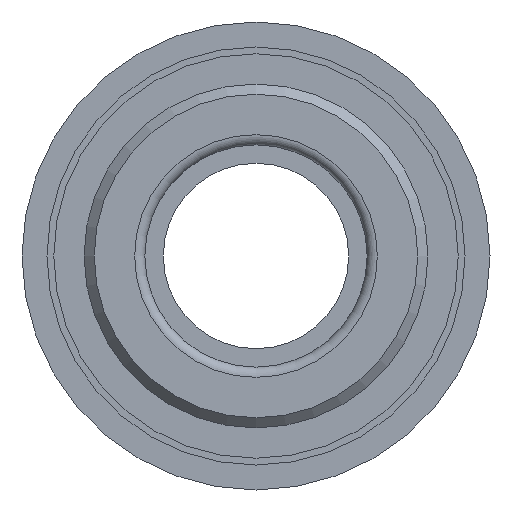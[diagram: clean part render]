
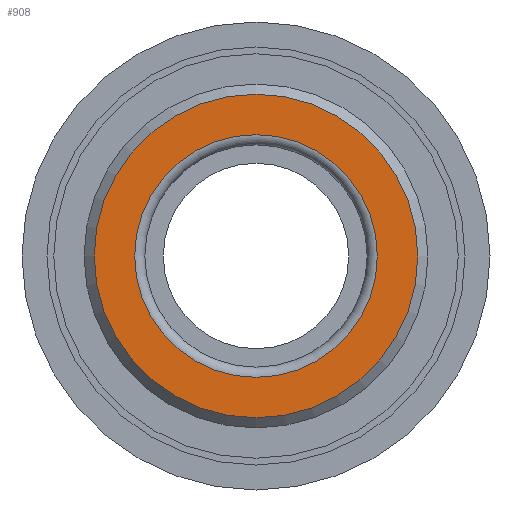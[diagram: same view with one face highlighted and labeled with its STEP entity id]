
A CAD part, left-side view. The second image highlights one B-rep face of the part: STEP entity #908.
In plain terms, the highlighted planar face has unit normal (-1, 0, 0).
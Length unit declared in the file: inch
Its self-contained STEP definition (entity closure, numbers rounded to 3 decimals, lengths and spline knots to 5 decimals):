
#21=PLANE('',#1017);
#123=CIRCLE('',#1018,0.267);
#124=CIRCLE('',#1019,0.356);
#239=ORIENTED_EDGE('',*,*,#487,.T.);
#240=ORIENTED_EDGE('',*,*,#488,.F.);
#487=EDGE_CURVE('',#585,#585,#123,.T.);
#488=EDGE_CURVE('',#586,#586,#124,.T.);
#585=VERTEX_POINT('',#1688);
#586=VERTEX_POINT('',#1690);
#691=EDGE_LOOP('',(#239));
#692=EDGE_LOOP('',(#240));
#785=FACE_BOUND('',#691,.T.);
#786=FACE_BOUND('',#692,.T.);
#908=ADVANCED_FACE('',(#785,#786),#21,.T.);
#1017=AXIS2_PLACEMENT_3D('',#1686,#1197,#1198);
#1018=AXIS2_PLACEMENT_3D('',#1687,#1199,#1200);
#1019=AXIS2_PLACEMENT_3D('',#1689,#1201,#1202);
#1197=DIRECTION('',(-1.,0.,0.));
#1198=DIRECTION('',(0.,0.,1.));
#1199=DIRECTION('',(1.,0.,0.));
#1200=DIRECTION('',(0.,0.,-1.));
#1201=DIRECTION('',(1.,0.,0.));
#1202=DIRECTION('',(0.,0.,-1.));
#1686=CARTESIAN_POINT('',(-0.0225,0.356,0.));
#1687=CARTESIAN_POINT('',(-0.0225,0.,0.));
#1688=CARTESIAN_POINT('',(-0.0225,0.,-0.267));
#1689=CARTESIAN_POINT('',(-0.0225,0.,0.));
#1690=CARTESIAN_POINT('',(-0.0225,0.,-0.356));
